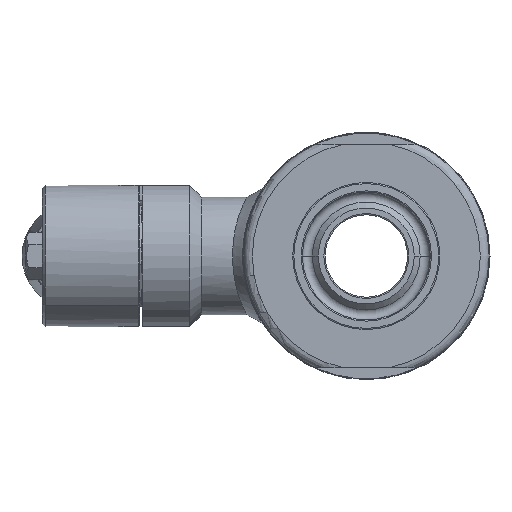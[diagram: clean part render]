
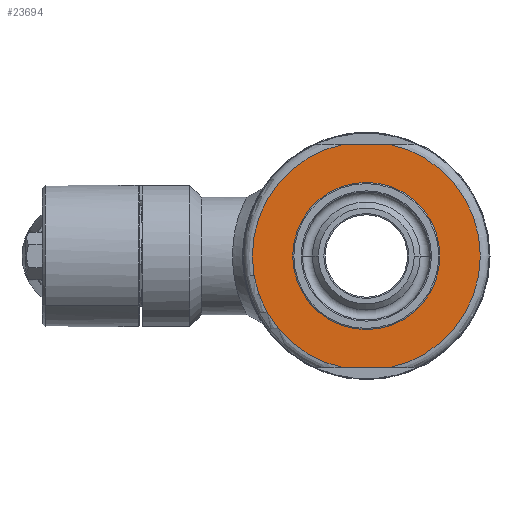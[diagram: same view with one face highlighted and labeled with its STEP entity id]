
A CAD part, left-side view. The second image highlights one B-rep face of the part: STEP entity #23694.
In plain terms, the highlighted planar face has unit normal (-1, 0, 0).
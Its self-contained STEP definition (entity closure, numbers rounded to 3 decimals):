
#3124=CARTESIAN_POINT('',(-28.,0.,0.));
#3125=DIRECTION('',(-1.,0.,0.));
#3126=DIRECTION('',(0.,1.,0.));
#3127=AXIS2_PLACEMENT_3D('',#3124,#3125,#3126);
#3156=DIRECTION('',(0.,1.,0.));
#3157=VECTOR('',#3156,7.327);
#3158=CARTESIAN_POINT('',(-28.,-3.664,-19.));
#3159=LINE('',#3158,#3157);
#3163=DIRECTION('',(0.,1.,0.));
#3164=VECTOR('',#3163,7.327);
#3165=CARTESIAN_POINT('',(-28.,-3.664,19.));
#3166=LINE('',#3165,#3164);
#3207=CARTESIAN_POINT('',(-28.,-3.664,-19.));
#3237=CARTESIAN_POINT('',(-28.,0.,0.));
#3238=DIRECTION('',(-1.,0.,0.));
#3239=DIRECTION('',(0.,-0.189,-0.982));
#3240=AXIS2_PLACEMENT_3D('',#3237,#3238,#3239);
#3245=CARTESIAN_POINT('',(-28.,-3.664,19.));
#3304=CARTESIAN_POINT('',(-28.,0.,0.));
#3305=DIRECTION('',(-1.,0.,0.));
#3306=DIRECTION('',(0.,0.189,0.982));
#3307=AXIS2_PLACEMENT_3D('',#3304,#3305,#3306);
#3312=CARTESIAN_POINT('',(-28.,3.664,-19.));
#3358=CARTESIAN_POINT('',(-28.,3.664,19.));
#3456=CARTESIAN_POINT('',(-28.,0.,0.));
#3457=DIRECTION('',(-1.,0.,0.));
#3458=DIRECTION('',(0.,-1.,0.));
#3459=AXIS2_PLACEMENT_3D('',#3456,#3457,#3458);
#21571=CARTESIAN_POINT('',(-28.,-11.5,0.));
#21572=CARTESIAN_POINT('',(-28.,11.5,0.));
#21573=VERTEX_POINT('',#21571);
#21574=VERTEX_POINT('',#21572);
#21607=VERTEX_POINT('',#3245);
#21610=VERTEX_POINT('',#3207);
#21615=VERTEX_POINT('',#3358);
#21618=VERTEX_POINT('',#3312);
#23674=CARTESIAN_POINT('',(-28.,0.,0.));
#23675=DIRECTION('',(-1.,0.,0.));
#23676=DIRECTION('',(0.,1.,0.));
#23677=AXIS2_PLACEMENT_3D('',#23674,#23675,#23676);
#23678=PLANE('',#23677);
#23680=ORIENTED_EDGE('',*,*,#23679,.T.);
#23682=ORIENTED_EDGE('',*,*,#23681,.F.);
#23684=ORIENTED_EDGE('',*,*,#23683,.F.);
#23686=ORIENTED_EDGE('',*,*,#23685,.F.);
#23687=EDGE_LOOP('',(#23680,#23682,#23684,#23686));
#23688=FACE_OUTER_BOUND('',#23687,.F.);
#23689=ORIENTED_EDGE('',*,*,#23664,.T.);
#23691=ORIENTED_EDGE('',*,*,#23690,.T.);
#23692=EDGE_LOOP('',(#23689,#23691));
#23693=FACE_BOUND('',#23692,.F.);
#23694=ADVANCED_FACE('',(#23688,#23693),#23678,.T.);
#3128=CIRCLE('',#3127,11.5);
#3241=CIRCLE('',#3240,19.35);
#3308=CIRCLE('',#3307,19.35);
#3460=CIRCLE('',#3459,11.5);
#23664=EDGE_CURVE('',#21574,#21573,#3128,.T.);
#23679=EDGE_CURVE('',#21610,#21618,#3159,.T.);
#23681=EDGE_CURVE('',#21615,#21618,#3308,.T.);
#23683=EDGE_CURVE('',#21607,#21615,#3166,.T.);
#23685=EDGE_CURVE('',#21610,#21607,#3241,.T.);
#23690=EDGE_CURVE('',#21573,#21574,#3460,.T.);
